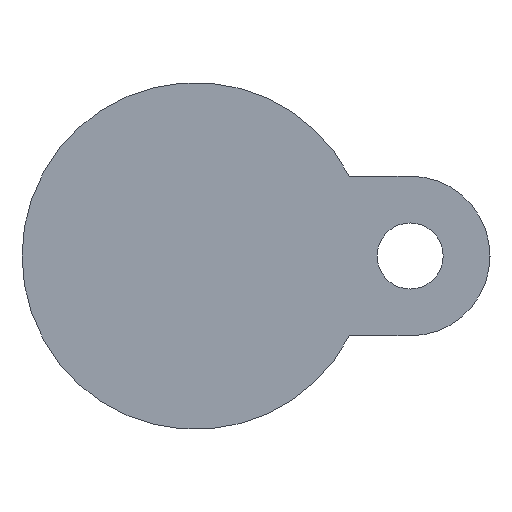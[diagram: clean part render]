
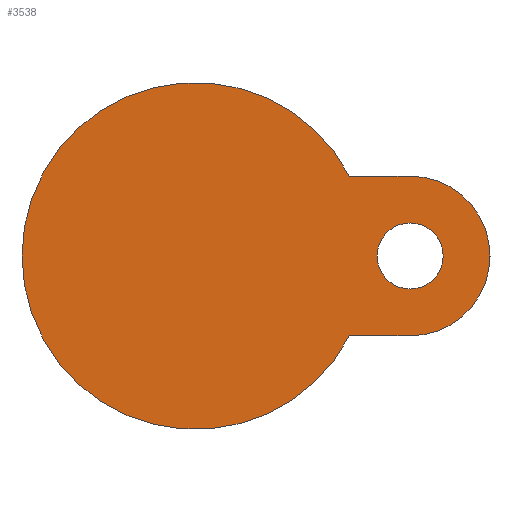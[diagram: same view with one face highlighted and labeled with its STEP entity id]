
A CAD part, front view. The second image highlights one B-rep face of the part: STEP entity #3538.
In plain terms, the highlighted planar face has unit normal (0, -1, 0).
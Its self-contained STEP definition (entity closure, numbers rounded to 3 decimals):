
#75 = CIRCLE ( 'NONE', #4490, 14.5 ) ;
#95 = CARTESIAN_POINT ( 'NONE',  ( 39., -15., 0. ) ) ;
#122 = VERTEX_POINT ( 'NONE', #2689 ) ;
#168 = ORIENTED_EDGE ( 'NONE', *, *, #1454, .T. ) ;
#186 = CARTESIAN_POINT ( 'NONE',  ( 0., -15., 0. ) ) ;
#233 = CIRCLE ( 'NONE', #2947, 6. ) ;
#378 = CARTESIAN_POINT ( 'NONE',  ( 45., -15., 0. ) ) ;
#662 = VERTEX_POINT ( 'NONE', #1170 ) ;
#716 = CARTESIAN_POINT ( 'NONE',  ( 39., -15., 14.5 ) ) ;
#814 = CARTESIAN_POINT ( 'NONE',  ( 27.964, -15., 14.5 ) ) ;
#1022 = DIRECTION ( 'NONE',  ( 0., -1., 0. ) ) ;
#1109 = DIRECTION ( 'NONE',  ( 1., 0., 0. ) ) ;
#1121 = CIRCLE ( 'NONE', #1644, 31.5 ) ;
#1170 = CARTESIAN_POINT ( 'NONE',  ( 39., -15., -14.5 ) ) ;
#1215 = DIRECTION ( 'NONE',  ( 1., 0., 0. ) ) ;
#1435 = FACE_OUTER_BOUND ( 'NONE', #4513, .T. ) ;
#1454 = EDGE_CURVE ( 'NONE', #1999, #2442, #2955, .T. ) ;
#1641 = EDGE_CURVE ( 'NONE', #662, #122, #75, .T. ) ;
#1644 = AXIS2_PLACEMENT_3D ( 'NONE', #186, #3581, #2252 ) ;
#1696 = ORIENTED_EDGE ( 'NONE', *, *, #2478, .T. ) ;
#1743 = DIRECTION ( 'NONE',  ( 0., 1., 0. ) ) ;
#1758 = VERTEX_POINT ( 'NONE', #378 ) ;
#1770 = DIRECTION ( 'NONE',  ( -1., 0., 0. ) ) ;
#1783 = DIRECTION ( 'NONE',  ( 0., -1., 0. ) ) ;
#1987 = AXIS2_PLACEMENT_3D ( 'NONE', #3884, #1743, #1770 ) ;
#1999 = VERTEX_POINT ( 'NONE', #716 ) ;
#2007 = CARTESIAN_POINT ( 'NONE',  ( 39., -15., 0. ) ) ;
#2015 = CARTESIAN_POINT ( 'NONE',  ( 33., -15., 0. ) ) ;
#2068 = AXIS2_PLACEMENT_3D ( 'NONE', #2289, #4003, #1109 ) ;
#2232 = EDGE_LOOP ( 'NONE', ( #4833, #5466 ) ) ;
#2252 = DIRECTION ( 'NONE',  ( -1., 0., 0. ) ) ;
#2289 = CARTESIAN_POINT ( 'NONE',  ( 39., -15., 0. ) ) ;
#2442 = VERTEX_POINT ( 'NONE', #814 ) ;
#2478 = EDGE_CURVE ( 'NONE', #3232, #662, #2512, .T. ) ;
#2512 = LINE ( 'NONE', #2541, #2633 ) ;
#2541 = CARTESIAN_POINT ( 'NONE',  ( 39., -15., -14.5 ) ) ;
#2633 = VECTOR ( 'NONE', #4233, 1000. ) ;
#2689 = CARTESIAN_POINT ( 'NONE',  ( 53.5, -15., 0. ) ) ;
#2703 = ORIENTED_EDGE ( 'NONE', *, *, #4576, .T. ) ;
#2937 = DIRECTION ( 'NONE',  ( 0., -1., 0. ) ) ;
#2947 = AXIS2_PLACEMENT_3D ( 'NONE', #3243, #2937, #1215 ) ;
#2955 = LINE ( 'NONE', #4653, #3241 ) ;
#3009 = EDGE_CURVE ( 'NONE', #1758, #4785, #233, .T. ) ;
#3118 = EDGE_CURVE ( 'NONE', #4191, #2442, #4284, .T. ) ;
#3232 = VERTEX_POINT ( 'NONE', #4865 ) ;
#3241 = VECTOR ( 'NONE', #3817, 1000. ) ;
#3243 = CARTESIAN_POINT ( 'NONE',  ( 39., -15., 0. ) ) ;
#3245 = EDGE_CURVE ( 'NONE', #4785, #1758, #4825, .T. ) ;
#3521 = CARTESIAN_POINT ( 'NONE',  ( 0., -15., 0. ) ) ;
#3534 = EDGE_CURVE ( 'NONE', #3232, #4191, #1121, .T. ) ;
#3538 = ADVANCED_FACE ( 'NONE', ( #1435, #4857 ), #4440, .T. ) ;
#3581 = DIRECTION ( 'NONE',  ( 0., 1., 0. ) ) ;
#3666 = DIRECTION ( 'NONE',  ( 1., 0., 0. ) ) ;
#3817 = DIRECTION ( 'NONE',  ( -1., 0., 0. ) ) ;
#3836 = CIRCLE ( 'NONE', #4983, 14.5 ) ;
#3884 = CARTESIAN_POINT ( 'NONE',  ( 0., -15., 0. ) ) ;
#3994 = DIRECTION ( 'NONE',  ( 1., 0., 0. ) ) ;
#4003 = DIRECTION ( 'NONE',  ( 0., -1., 0. ) ) ;
#4031 = ORIENTED_EDGE ( 'NONE', *, *, #3534, .F. ) ;
#4115 = CARTESIAN_POINT ( 'NONE',  ( -31.5, -15., 0. ) ) ;
#4191 = VERTEX_POINT ( 'NONE', #4115 ) ;
#4233 = DIRECTION ( 'NONE',  ( 1., 0., 0. ) ) ;
#4284 = CIRCLE ( 'NONE', #1987, 31.5 ) ;
#4440 = PLANE ( 'NONE',  #5170 ) ;
#4490 = AXIS2_PLACEMENT_3D ( 'NONE', #2007, #4941, #3666 ) ;
#4513 = EDGE_LOOP ( 'NONE', ( #4031, #1696, #5323, #2703, #168, #5369 ) ) ;
#4576 = EDGE_CURVE ( 'NONE', #122, #1999, #3836, .T. ) ;
#4653 = CARTESIAN_POINT ( 'NONE',  ( 16.055, -15., 14.5 ) ) ;
#4685 = DIRECTION ( 'NONE',  ( 1., 0., 0. ) ) ;
#4785 = VERTEX_POINT ( 'NONE', #2015 ) ;
#4825 = CIRCLE ( 'NONE', #2068, 6. ) ;
#4833 = ORIENTED_EDGE ( 'NONE', *, *, #3009, .F. ) ;
#4857 = FACE_BOUND ( 'NONE', #2232, .T. ) ;
#4865 = CARTESIAN_POINT ( 'NONE',  ( 27.964, -15., -14.5 ) ) ;
#4941 = DIRECTION ( 'NONE',  ( 0., -1., 0. ) ) ;
#4983 = AXIS2_PLACEMENT_3D ( 'NONE', #95, #1783, #4685 ) ;
#5170 = AXIS2_PLACEMENT_3D ( 'NONE', #3521, #1022, #3994 ) ;
#5323 = ORIENTED_EDGE ( 'NONE', *, *, #1641, .T. ) ;
#5369 = ORIENTED_EDGE ( 'NONE', *, *, #3118, .F. ) ;
#5466 = ORIENTED_EDGE ( 'NONE', *, *, #3245, .F. ) ;
